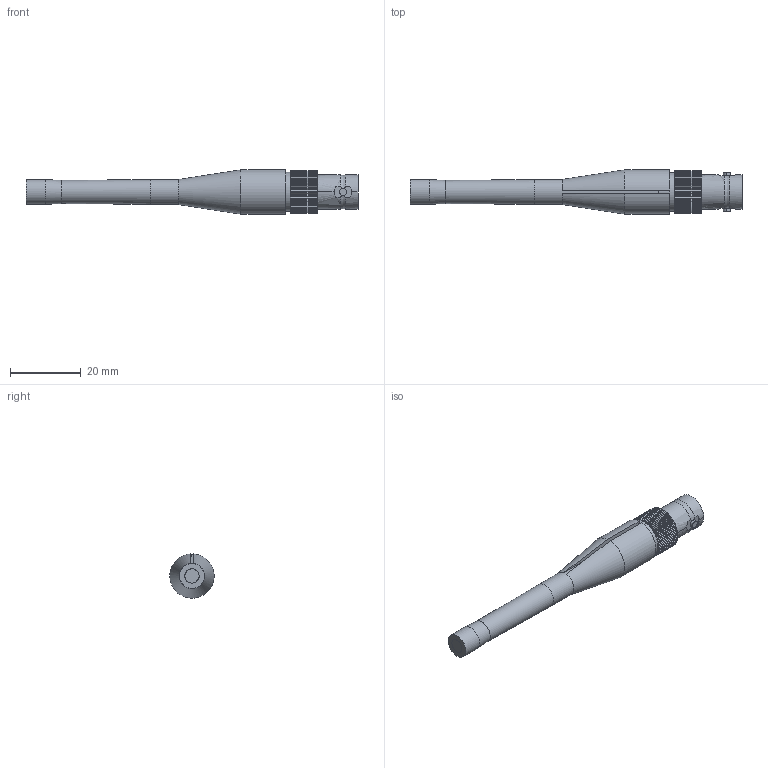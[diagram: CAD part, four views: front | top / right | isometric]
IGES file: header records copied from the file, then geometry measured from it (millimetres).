
Global section: file name: Mikrofon MI17; native system: Autodesk Inventor 2021; preprocessor: unknown; author: RV; date: 20220129.120324; units: millimetre
Bounding box: 93.6 x 12.49 x 12.48 mm (x, y, z)
Volume: 3816.9 mm3; surface area: 6401.9 mm2
Topology: 6 solids, 6 shells, 322 faces, 911 edges, 609 vertices
Faces by surface type: bspline 322
